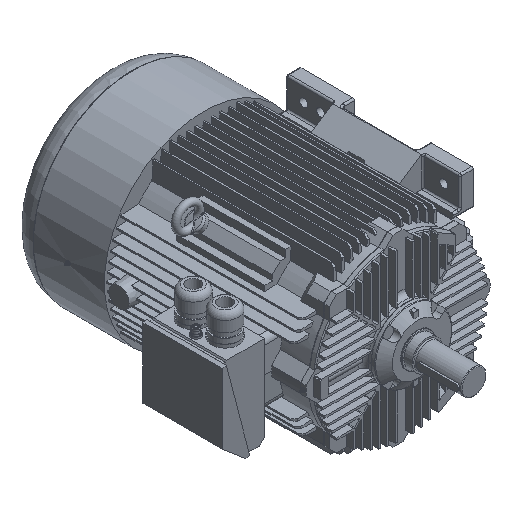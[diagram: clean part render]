
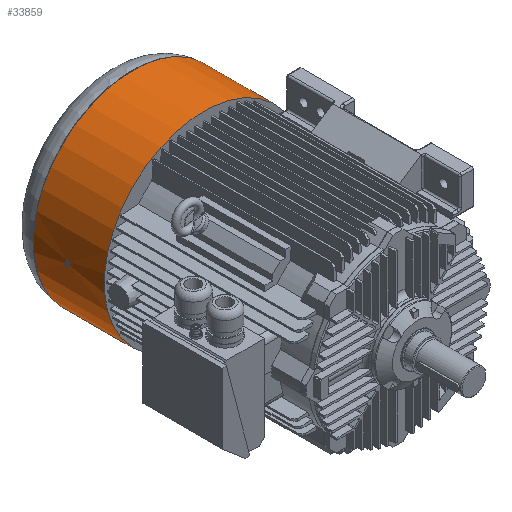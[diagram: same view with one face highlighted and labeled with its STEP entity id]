
A CAD part, isometric view. The second image highlights one B-rep face of the part: STEP entity #33859.
In plain terms, the highlighted cylindrical face has radius 298 mm (diameter 596 mm), a partial arc.
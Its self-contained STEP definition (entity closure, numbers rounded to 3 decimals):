
#152=ELLIPSE('',#35351,344.101,298.);
#153=ELLIPSE('',#35353,344.101,298.);
#154=ELLIPSE('',#35356,344.101,298.);
#155=ELLIPSE('',#35358,344.101,298.);
#979=LINE('',#45314,#3108);
#991=LINE('',#45408,#3120);
#992=LINE('',#45417,#3121);
#993=LINE('',#45421,#3122);
#3108=VECTOR('',#38077,1000.);
#3120=VECTOR('',#38147,1000.);
#3121=VECTOR('',#38158,1000.);
#3122=VECTOR('',#38161,1000.);
#5170=CYLINDRICAL_SURFACE('',#35378,298.);
#6027=ORIENTED_EDGE('',*,*,#13186,.T.);
#6028=ORIENTED_EDGE('',*,*,#13187,.T.);
#6029=ORIENTED_EDGE('',*,*,#13188,.F.);
#6030=ORIENTED_EDGE('',*,*,#13189,.T.);
#6031=ORIENTED_EDGE('',*,*,#13166,.F.);
#6032=ORIENTED_EDGE('',*,*,#13153,.F.);
#6033=ORIENTED_EDGE('',*,*,#13172,.F.);
#6034=ORIENTED_EDGE('',*,*,#13175,.F.);
#6035=ORIENTED_EDGE('',*,*,#13184,.F.);
#6036=ORIENTED_EDGE('',*,*,#13163,.F.);
#13153=EDGE_CURVE('',#16788,#16790,#979,.T.);
#13163=EDGE_CURVE('',#16799,#16800,#152,.T.);
#13166=EDGE_CURVE('',#16790,#16799,#153,.T.);
#13172=EDGE_CURVE('',#16804,#16788,#154,.T.);
#13175=EDGE_CURVE('',#16805,#16804,#155,.T.);
#13184=EDGE_CURVE('',#16800,#16805,#991,.F.);
#13186=EDGE_CURVE('',#16814,#16815,#19110,.T.);
#13187=EDGE_CURVE('',#16815,#16816,#992,.T.);
#13188=EDGE_CURVE('',#16817,#16816,#19111,.T.);
#13189=EDGE_CURVE('',#16817,#16814,#993,.F.);
#16788=VERTEX_POINT('',#45312);
#16790=VERTEX_POINT('',#45315);
#16799=VERTEX_POINT('',#45340);
#16800=VERTEX_POINT('',#45342);
#16804=VERTEX_POINT('',#45369);
#16805=VERTEX_POINT('',#45378);
#16814=VERTEX_POINT('',#45415);
#16815=VERTEX_POINT('',#45416);
#16816=VERTEX_POINT('',#45418);
#16817=VERTEX_POINT('',#45420);
#19110=CIRCLE('',#35379,298.);
#19111=CIRCLE('',#35380,298.);
#20190=EDGE_LOOP('',(#6027,#6028,#6029,#6030));
#20191=EDGE_LOOP('',(#6031,#6032,#6033,#6034,#6035,#6036));
#21723=FACE_BOUND('',#20190,.T.);
#21724=FACE_BOUND('',#20191,.T.);
#33859=ADVANCED_FACE('',(#21723,#21724),#5170,.T.);
#35351=AXIS2_PLACEMENT_3D('',#45341,#38094,#38095);
#35353=AXIS2_PLACEMENT_3D('',#45350,#38099,#38100);
#35356=AXIS2_PLACEMENT_3D('',#45370,#38108,#38109);
#35358=AXIS2_PLACEMENT_3D('',#45379,#38113,#38114);
#35378=AXIS2_PLACEMENT_3D('',#45413,#38154,#38155);
#35379=AXIS2_PLACEMENT_3D('',#45414,#38156,#38157);
#35380=AXIS2_PLACEMENT_3D('',#45419,#38159,#38160);
#38077=DIRECTION('',(0.,-1.,0.));
#38094=DIRECTION('',(0.,0.866,-0.5));
#38095=DIRECTION('',(0.,-0.5,-0.866));
#38099=DIRECTION('',(0.,0.866,0.5));
#38100=DIRECTION('',(0.,-0.5,0.866));
#38108=DIRECTION('',(0.,-0.866,0.5));
#38109=DIRECTION('',(0.,-0.5,-0.866));
#38113=DIRECTION('',(0.,-0.866,-0.5));
#38114=DIRECTION('',(0.,-0.5,0.866));
#38147=DIRECTION('',(0.,-1.,0.));
#38154=DIRECTION('',(0.,-1.,0.));
#38155=DIRECTION('',(-1.,0.,0.));
#38156=DIRECTION('',(0.,-1.,0.));
#38157=DIRECTION('',(-1.,0.,0.));
#38158=DIRECTION('',(0.,-1.,0.));
#38159=DIRECTION('',(0.,-1.,0.));
#38160=DIRECTION('',(-1.,0.,0.));
#38161=DIRECTION('',(0.,-1.,0.));
#45312=CARTESIAN_POINT('',(-297.966,682.757,-4.493));
#45314=CARTESIAN_POINT('',(-297.966,571.,-4.493));
#45315=CARTESIAN_POINT('',(-297.966,675.243,-4.493));
#45340=CARTESIAN_POINT('',(-298.,672.649,0.));
#45341=CARTESIAN_POINT('',(0.,672.649,0.));
#45342=CARTESIAN_POINT('',(-297.966,675.243,4.493));
#45350=CARTESIAN_POINT('',(0.,672.649,0.));
#45369=CARTESIAN_POINT('',(-298.,685.351,0.));
#45370=CARTESIAN_POINT('',(0.,685.351,0.));
#45378=CARTESIAN_POINT('',(-297.966,682.757,4.493));
#45379=CARTESIAN_POINT('',(0.,685.351,0.));
#45408=CARTESIAN_POINT('',(-297.966,571.,4.493));
#45413=CARTESIAN_POINT('',(0.,571.,0.));
#45414=CARTESIAN_POINT('',(0.,784.,0.));
#45415=CARTESIAN_POINT('',(267.194,784.,131.952));
#45416=CARTESIAN_POINT('',(267.194,784.,-131.952));
#45417=CARTESIAN_POINT('',(267.194,1024.47,-131.952));
#45418=CARTESIAN_POINT('',(267.194,571.,-131.952));
#45419=CARTESIAN_POINT('',(0.,571.,0.));
#45420=CARTESIAN_POINT('',(267.194,571.,131.952));
#45421=CARTESIAN_POINT('',(267.194,1024.47,131.952));
